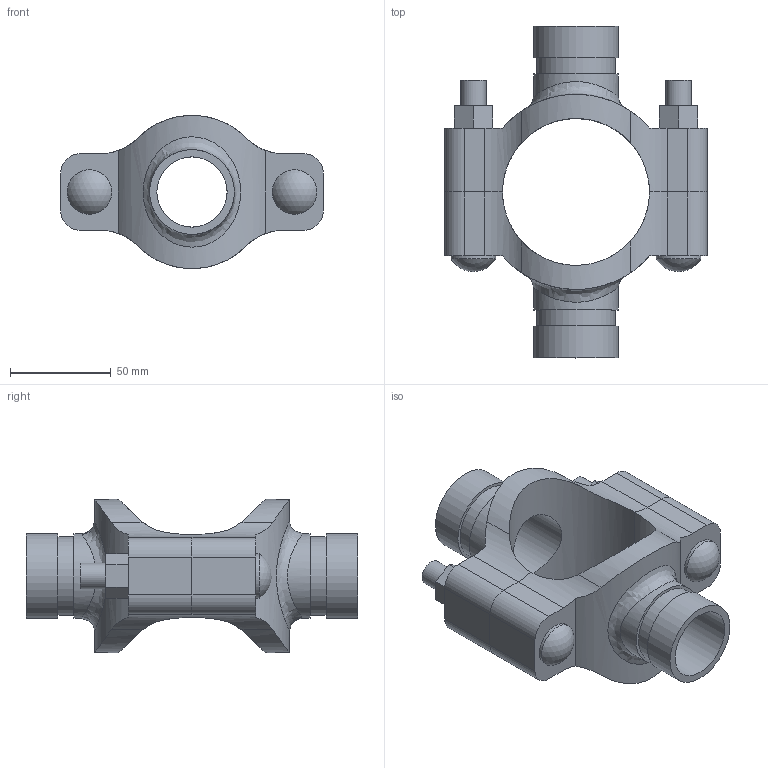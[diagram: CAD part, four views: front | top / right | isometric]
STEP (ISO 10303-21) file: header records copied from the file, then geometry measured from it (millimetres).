
FILE_DESCRIPTION(/* description */ ('VIC MECH-T BRANCH OUTLET CROSS STYLE 920N (GRVD)','CAx-IF Rec.Pracs.---Representation and Presentation of Product Manufacturing Information (PMI)---4.0---2014-10-13'),/* implementation_level */ '2;1');
FILE_NAME(/* name */ 'C:\Users\Vjadhav\AppData\Roaming\Autodesk\ApplicationPlugins\Back Up\Victaulic_IPS_Mechanical-Cross Outlet_Style 920N (OGS)\Victaulic_IPS_Mechanical-Cross Outlet_02.5x01.25x01.25 (65x32x32).stp',/* time_stamp */ '2020-08-06T19:43:08+05:00',/* author */ ('Vjadhav'),/* organization */ ('Victaulic'),/* preprocessor_version */ 'ST-DEVELOPER v17.2',/* originating_system */ 'Autodesk Inventor 2019',/* authorisation */ '');
FILE_SCHEMA (('AP242_MANAGED_MODEL_BASED_3D_ENGINEERING_MIM_LF { 1 0 10303 442 1 1 4 }'));
Length unit declared in the file: inch
Products named in the file (3): 920NG-02.5x01.25x01.25; 920NG-02.5x01.25; 920NG-02.5x01.25_1
Assembly tree (2 placements, depth 2):
  920NG-02.5x01.25x01.25
    920NG-02.5x01.25
    920NG-02.5x01.25_1
Bounding box: 130.56 x 165.1 x 76.16 mm (x, y, z)
Volume: 272857.9 mm3; surface area: 79659.6 mm2
Topology: 2 solids, 2 shells, 104 faces, 262 edges, 178 vertices
Faces by surface type: plane 54, cylinder 46, sphere 2, bspline 2
Full cylindrical faces by diameter (mm): 12.7 x4, 22.225 x2, 34.925 x2, 38.989 x2, 42.164 x4
Entity records: 4174 total; most frequent: CARTESIAN_POINT 1401, DIRECTION 532, ORIENTED_EDGE 524, EDGE_CURVE 262, AXIS2_PLACEMENT_3D 193, VERTEX_POINT 178, LINE 146, VECTOR 146
